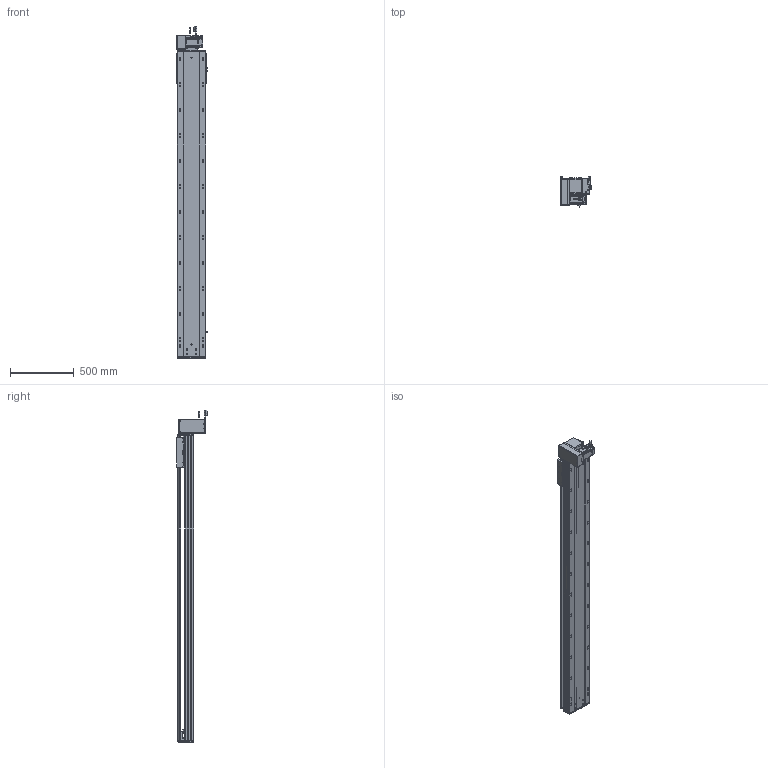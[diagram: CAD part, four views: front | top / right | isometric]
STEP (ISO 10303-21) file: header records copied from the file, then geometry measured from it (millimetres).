
FILE_DESCRIPTION (( 'STEP AP203' ), '1' );
FILE_NAME ('RY220-T-300-DL.SLDASM_2050.step', '2022-07-25T07:54:11', ( '' ), ( '' ), 'SwSTEP 2.0', 'SolidWorks 2016', '' );
FILE_SCHEMA (( 'CONFIG_CONTROL_DESIGN' ));
Length unit declared in the file: millimetre
Products named in the file (14): RY220-T-湍謫欶(鍼踢); RY220-T-300-DL.SLDASM_2050; RY220翋肮祭謫裔啣; RY220圉猾敕々湍臏賑輸; RY220翋肮祭謫釱; 110A-T-肮祭謫釱傷裔; RY220-同步轮副支撑座6304×2; RY220-T菁釱-300_2050; 怢湛750W_ECMA-CX0807ES; RY220-T-300-奻裔啣_2050; 滅袉蝶18-15; 覜茼ん672; RY220-T-蛌殏萇儂假蚾啣(750W); RY220-俋离672覜茼んえ
Assembly tree (18 placements, depth 2):
  RY220-T-300-DL.SLDASM_2050
    RY220-T菁釱-300_2050
    RY220翋肮祭謫釱
    覜茼ん672  x3
    RY220圉猾敕々湍臏賑輸
    RY220-T-300-奻裔啣_2050
    RY220-俋离672覜茼んえ
    滅袉蝶18-15  x3
    RY220翋肮祭謫裔啣  x2
    110A-T-肮祭謫釱傷裔
    怢湛750W_ECMA-CX0807ES
    RY220-T-湍謫欶(鍼踢)
    RY220-T-蛌殏萇儂假蚾啣(750W)
    RY220-同步轮副支撑座6304×2
Bounding box: 239.7 x 240.74 x 2603.27 mm (x, y, z)
Volume: 19052134.5 mm3; surface area: 5795792.9 mm2
Topology: 19 solids, 19 shells, 2844 faces, 7863 edges, 4952 vertices
Faces by surface type: cylinder 1376, plane 1069, cone 317, bspline 56, sphere 16, torus 10
Entity records: 94851 total; most frequent: CARTESIAN_POINT 26907, ORIENTED_EDGE 14074, DIRECTION 13468, EDGE_CURVE 7037, AXIS2_PLACEMENT_3D 4822, VERTEX_POINT 4576, LINE 3824, VECTOR 3824
